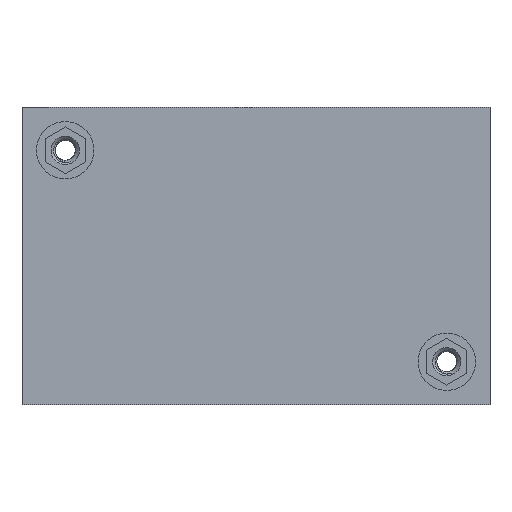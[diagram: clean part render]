
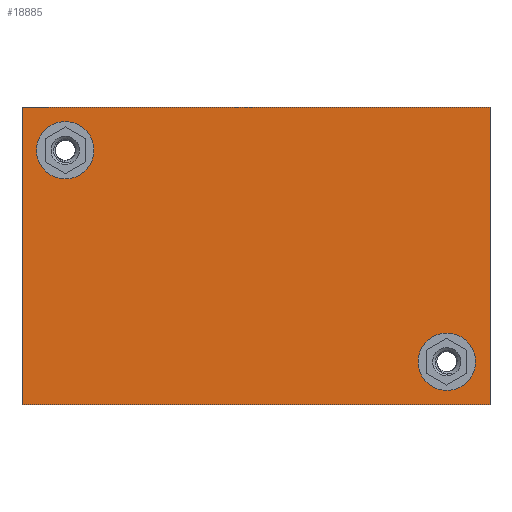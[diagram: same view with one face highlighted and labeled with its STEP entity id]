
A CAD part, front view. The second image highlights one B-rep face of the part: STEP entity #18885.
In plain terms, the highlighted planar face has unit normal (0, -1, 0).
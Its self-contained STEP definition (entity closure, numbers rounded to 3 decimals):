
#72 = CARTESIAN_POINT ( 'NONE',  ( -23.6, -1.2, 13.08 ) ) ;
#1249 = CARTESIAN_POINT ( 'NONE',  ( -28.95, -1.2, -18.4 ) ) ;
#1391 = EDGE_LOOP ( 'NONE', ( #16826 ) ) ;
#1456 = ORIENTED_EDGE ( 'NONE', *, *, #10942, .T. ) ;
#2151 = FACE_BOUND ( 'NONE', #9853, .T. ) ;
#2415 = LINE ( 'NONE', #18812, #14303 ) ;
#2702 = VECTOR ( 'NONE', #6780, 1000. ) ;
#3314 = VERTEX_POINT ( 'NONE', #1249 ) ;
#3716 = CARTESIAN_POINT ( 'NONE',  ( -28.95, -1.2, 18.4 ) ) ;
#3963 = VECTOR ( 'NONE', #8732, 1000. ) ;
#3976 = DIRECTION ( 'NONE',  ( 0., 0., 1. ) ) ;
#5088 = ORIENTED_EDGE ( 'NONE', *, *, #8871, .F. ) ;
#5352 = VERTEX_POINT ( 'NONE', #11191 ) ;
#5783 = DIRECTION ( 'NONE',  ( 0., -1., 0. ) ) ;
#5954 = VECTOR ( 'NONE', #18260, 1000. ) ;
#6780 = DIRECTION ( 'NONE',  ( 0., 0., -1. ) ) ;
#6985 = EDGE_LOOP ( 'NONE', ( #1456, #23150, #12655, #10481 ) ) ;
#7491 = CIRCLE ( 'NONE', #10800, 3.55 ) ;
#7502 = FACE_BOUND ( 'NONE', #1391, .T. ) ;
#7748 = DIRECTION ( 'NONE',  ( 0., -1., 0. ) ) ;
#7976 = VERTEX_POINT ( 'NONE', #3716 ) ;
#7996 = DIRECTION ( 'NONE',  ( 0., 0., 1. ) ) ;
#8115 = CARTESIAN_POINT ( 'NONE',  ( 23.6, -1.2, -13.08 ) ) ;
#8401 = DIRECTION ( 'NONE',  ( 0., 0., 1. ) ) ;
#8605 = CARTESIAN_POINT ( 'NONE',  ( -28.95, -1.2, -18.4 ) ) ;
#8732 = DIRECTION ( 'NONE',  ( 1., 0., 0. ) ) ;
#8871 = EDGE_CURVE ( 'NONE', #15107, #15107, #7491, .T. ) ;
#9853 = EDGE_LOOP ( 'NONE', ( #5088 ) ) ;
#10481 = ORIENTED_EDGE ( 'NONE', *, *, #25751, .T. ) ;
#10800 = AXIS2_PLACEMENT_3D ( 'NONE', #72, #15938, #7996 ) ;
#10942 = EDGE_CURVE ( 'NONE', #13779, #22773, #2415, .T. ) ;
#11191 = CARTESIAN_POINT ( 'NONE',  ( 23.6, -1.2, -9.53 ) ) ;
#12136 = LINE ( 'NONE', #16052, #5954 ) ;
#12139 = DIRECTION ( 'NONE',  ( 0., 0., 1. ) ) ;
#12493 = LINE ( 'NONE', #24370, #3963 ) ;
#12497 = EDGE_CURVE ( 'NONE', #7976, #3314, #20580, .T. ) ;
#12655 = ORIENTED_EDGE ( 'NONE', *, *, #12497, .T. ) ;
#13338 = EDGE_CURVE ( 'NONE', #5352, #5352, #13874, .T. ) ;
#13779 = VERTEX_POINT ( 'NONE', #14685 ) ;
#13874 = CIRCLE ( 'NONE', #20099, 3.55 ) ;
#13985 = FACE_OUTER_BOUND ( 'NONE', #6985, .T. ) ;
#14303 = VECTOR ( 'NONE', #8401, 1000. ) ;
#14380 = CARTESIAN_POINT ( 'NONE',  ( 28.95, -1.2, 18.4 ) ) ;
#14685 = CARTESIAN_POINT ( 'NONE',  ( 28.95, -1.2, -18.4 ) ) ;
#15107 = VERTEX_POINT ( 'NONE', #23071 ) ;
#15938 = DIRECTION ( 'NONE',  ( 0., -1., 0. ) ) ;
#16052 = CARTESIAN_POINT ( 'NONE',  ( 28.95, -1.2, 18.4 ) ) ;
#16826 = ORIENTED_EDGE ( 'NONE', *, *, #13338, .F. ) ;
#17649 = PLANE ( 'NONE',  #22721 ) ;
#18260 = DIRECTION ( 'NONE',  ( -1., 0., 0. ) ) ;
#18812 = CARTESIAN_POINT ( 'NONE',  ( 28.95, -1.2, -18.4 ) ) ;
#18885 = ADVANCED_FACE ( 'NONE', ( #7502, #2151, #13985 ), #17649, .T. ) ;
#20099 = AXIS2_PLACEMENT_3D ( 'NONE', #8115, #5783, #12139 ) ;
#20580 = LINE ( 'NONE', #8605, #2702 ) ;
#21939 = CARTESIAN_POINT ( 'NONE',  ( 28.95, -1.2, 18.4 ) ) ;
#21986 = EDGE_CURVE ( 'NONE', #22773, #7976, #12136, .T. ) ;
#22721 = AXIS2_PLACEMENT_3D ( 'NONE', #21939, #7748, #3976 ) ;
#22773 = VERTEX_POINT ( 'NONE', #14380 ) ;
#23071 = CARTESIAN_POINT ( 'NONE',  ( -23.6, -1.2, 16.63 ) ) ;
#23150 = ORIENTED_EDGE ( 'NONE', *, *, #21986, .T. ) ;
#24370 = CARTESIAN_POINT ( 'NONE',  ( 28.95, -1.2, -18.4 ) ) ;
#25751 = EDGE_CURVE ( 'NONE', #3314, #13779, #12493, .T. ) ;
